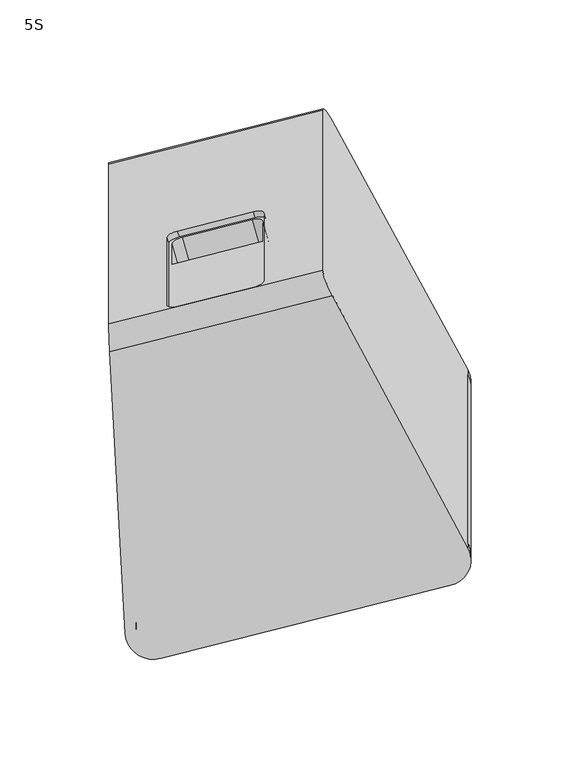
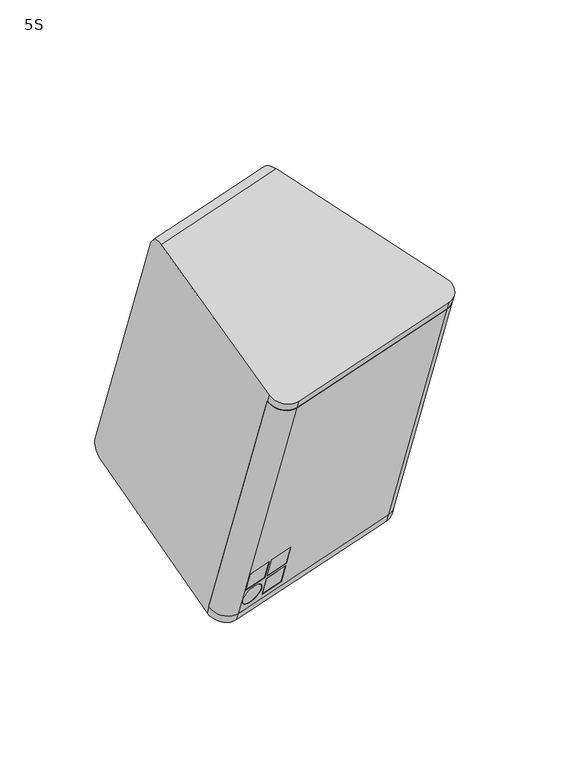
"""IFC4 building model written with IfcOpenShell, lengths in millimetres: proxy geometry, d&b xS-Series 5S Point Source : 5S."""

import ifcopenshell
import ifcopenshell.guid

model = None  # the IFC model being written
_history = None  # IfcOwnerHistory: only IFC2X3 demands one
_inside = {}  # id of a spatial element -> (the spatial element, [elements in it])
_under = {}  # id of a project, library or spatial element -> (it, [spatial elements below it])
_declared = {}  # id of a project -> (the project, [libraries it declares])
_typed = {}  # id of a type object -> (the type object, [elements of that type])
_made_of = {}  # id of a material, layer set ... -> (it, [elements and type objects made of it])


def new_model(schema):
    """Start an empty IFC model of exactly this schema.

    Asked for "IFC4X3", IfcOpenShell would pick the latest addendum, in which some entities
    have other attributes; the version numbers below select the first issue.
    IFC2X3 requires an IfcOwnerHistory on every rooted entity: one is made here for all.
    """
    global model, _history
    if schema == "IFC4X3":
        model = ifcopenshell.file(schema_version=(4, 3, 0, 0))
    else:
        model = ifcopenshell.file(schema=schema)
    _inside.clear()
    _under.clear()
    _declared.clear()
    _typed.clear()
    _made_of.clear()
    _history = None
    if model.schema == "IFC2X3":
        org = make("IfcOrganization", Name="unknown")
        user = make(
            "IfcPersonAndOrganization",
            ThePerson=make("IfcPerson", FamilyName="unknown"),
            TheOrganization=org,
        )
        app = make(
            "IfcApplication",
            ApplicationDeveloper=org,
            Version="unknown",
            ApplicationFullName="unknown",
            ApplicationIdentifier="unknown",
        )
        _history = make(
            "IfcOwnerHistory",
            OwningUser=user,
            OwningApplication=app,
            ChangeAction="ADDED",
            CreationDate=0,
        )
    return model


def make(cls, **values):
    """One entity of the class cls with the attributes given. An attribute that is None is left unset."""
    return model.create_entity(
        cls, **{name: value for name, value in values.items() if value is not None}
    )


def rooted(cls, **values):
    """An entity with a GlobalId (a new one), such as an element, a storey or a relation."""
    return make(cls, GlobalId=ifcopenshell.guid.new(), OwnerHistory=_history, **values)


def si_unit(unit_type, name, prefix=None):
    """IfcSIUnit, for example si_unit("LENGTHUNIT", "METRE", prefix="MILLI")."""
    return make("IfcSIUnit", UnitType=unit_type, Prefix=prefix, Name=name)


def assignment(units):
    """IfcUnitAssignment: the units of a project."""
    return None if units is None else make("IfcUnitAssignment", Units=units)


def point(xyz):
    """IfcCartesianPoint."""
    return None if xyz is None else make("IfcCartesianPoint", Coordinates=xyz)


def direction(xyz):
    """IfcDirection."""
    return None if xyz is None else make("IfcDirection", DirectionRatios=xyz)


def frame(location, z_axis=None, x_axis=None):
    """IfcAxis2Placement3D, a coordinate frame: its origin and axes. An axis left out is left unset."""
    return make(
        "IfcAxis2Placement3D",
        Location=point(location),
        Axis=direction(z_axis),
        RefDirection=direction(x_axis),
    )


def frame_2d(location, x_axis=None):
    """IfcAxis2Placement2D, a coordinate frame in the plane: its origin and x axis."""
    return make(
        "IfcAxis2Placement2D", Location=point(location), RefDirection=direction(x_axis)
    )


def origin():
    """The frame at (0, 0, 0) with its axes left unset."""
    return frame((0.0, 0.0, 0.0))


def place(relative_to, where):
    """IfcLocalPlacement: puts the frame where relative to a parent placement (None: the world)."""
    return make(
        "IfcLocalPlacement", PlacementRelTo=relative_to, RelativePlacement=where
    )


def context(
    kind, dimensions, precision=None, world=None, true_north=None, identifier=None
):
    """IfcGeometricRepresentationContext, for example the 3D "Model" context."""
    return make(
        "IfcGeometricRepresentationContext",
        ContextIdentifier=identifier,
        ContextType=kind,
        CoordinateSpaceDimension=dimensions,
        Precision=precision,
        WorldCoordinateSystem=world,
        TrueNorth=true_north,
    )


def project(units=None, contexts=None):
    """IfcProject with its units and contexts."""
    return rooted(
        "IfcProject",
        Name="project",
        RepresentationContexts=contexts,
        UnitsInContext=assignment(units),
    )


def spatial(cls, under=None, at=None, **own):
    """A site, building, storey or space (cls), placed at a placement, below another one or the project."""
    s = rooted(cls, ObjectPlacement=at, **own)
    if under is not None:
        _under.setdefault(under.id(), (under, []))[1].append(s)
    return s


def polyline(points):
    """IfcPolyline through the points."""
    return make("IfcPolyline", Points=[point(p) for p in points])


def circle_curve(where, radius):
    """IfcCircle in the frame where."""
    return make("IfcCircle", Position=where, Radius=radius)


def ellipse_curve(where, semi_axis1, semi_axis2):
    """IfcEllipse in the frame where."""
    return make(
        "IfcEllipse", Position=where, SemiAxis1=semi_axis1, SemiAxis2=semi_axis2
    )


def trimmed(basis, trim1, trim2, sense, master):
    """IfcTrimmedCurve: the piece of a basis curve between two trims."""
    return make(
        "IfcTrimmedCurve",
        BasisCurve=basis,
        Trim1=trim1,
        Trim2=trim2,
        SenseAgreement=sense,
        MasterRepresentation=master,
    )


def segment(curve, same_sense, transition):
    """IfcCompositeCurveSegment."""
    return make(
        "IfcCompositeCurveSegment",
        Transition=transition,
        SameSense=same_sense,
        ParentCurve=curve,
    )


def composite_curve(segments, self_intersect=None):
    """IfcCompositeCurve: segments joined end to end."""
    return make("IfcCompositeCurve", Segments=segments, SelfIntersect=self_intersect)


def outline(outer, holes=None, kind="AREA"):
    """IfcArbitraryClosedProfileDef: a profile drawn as a closed curve; with holes, ...WithVoids."""
    if holes is None:
        return make("IfcArbitraryClosedProfileDef", ProfileType=kind, OuterCurve=outer)
    return make(
        "IfcArbitraryProfileDefWithVoids",
        ProfileType=kind,
        OuterCurve=outer,
        InnerCurves=holes,
    )


def extrude(swept, where, along, depth):
    """IfcExtrudedAreaSolid: the profile swept, set in the frame where, extruded along a direction by depth."""
    return make(
        "IfcExtrudedAreaSolid",
        SweptArea=swept,
        Position=where,
        ExtrudedDirection=direction(along),
        Depth=depth,
    )


def shape(context_of_items, identifier, shape_type, items):
    """IfcShapeRepresentation: the items that make up one representation, for example the "Body"."""
    return make(
        "IfcShapeRepresentation",
        ContextOfItems=context_of_items,
        RepresentationIdentifier=identifier,
        RepresentationType=shape_type,
        Items=items,
    )


def source(mapping_origin, context_of_items, identifier, shape_type, items):
    """IfcRepresentationMap: a shape defined once, which mapped items show again and again."""
    return make(
        "IfcRepresentationMap",
        MappingOrigin=mapping_origin,
        MappedRepresentation=shape(context_of_items, identifier, shape_type, items),
    )


def transform(
    local_origin,
    x_axis=None,
    y_axis=None,
    z_axis=None,
    scale=None,
    scale2=None,
    scale3=None,
    uniform=True,
):
    """IfcCartesianTransformationOperator3D, or its non-uniform kind. x_axis, y_axis, z_axis: its Axis1, 2, 3."""
    if uniform:
        return make(
            "IfcCartesianTransformationOperator3D",
            Axis1=direction(x_axis),
            Axis2=direction(y_axis),
            LocalOrigin=point(local_origin),
            Scale=scale,
            Axis3=direction(z_axis),
        )
    return make(
        "IfcCartesianTransformationOperator3DnonUniform",
        Axis1=direction(x_axis),
        Axis2=direction(y_axis),
        LocalOrigin=point(local_origin),
        Scale=scale,
        Axis3=direction(z_axis),
        Scale2=scale2,
        Scale3=scale3,
    )


def mapped(mapping_source, mapping_target):
    """IfcMappedItem: shows the shape of a source again, moved by a transform."""
    return make(
        "IfcMappedItem", MappingSource=mapping_source, MappingTarget=mapping_target
    )


def made_of(thing, what):
    """Note that an element or type object is made of a material, layer set ...; save() writes the relation."""
    if what is not None:
        _made_of.setdefault(what.id(), (what, []))[1].append(thing)
    return thing


def element(
    cls,
    number,
    at=None,
    inside=None,
    cuts=None,
    type_object=None,
    material=None,
    context=None,
    identifier="Body",
    shape_type=None,
    held_by="IfcProductDefinitionShape",
    body=None,
    shapes=None,
    **own,
):
    """One element of the class cls, such as IfcWall. Its Tag is "e" and its number.

    at: its placement. inside: the storey or other place that contains it. cuts: it is an
    opening in that element (IfcRelVoidsElement). A single representation is given by context,
    identifier, shape_type and body (its items); several are given by shapes. held_by: the class
    of the entity that holds the representations. save() writes the other relations.
    """
    e = rooted(cls, Tag="e%d" % number, ObjectPlacement=at, **own)
    if body is not None:
        shapes = [shape(context, identifier, shape_type, body)]
    if shapes is not None:
        e.Representation = make(held_by, Representations=shapes)
    if inside is not None:
        _inside.setdefault(inside.id(), (inside, []))[1].append(e)
    if cuts is not None:
        rooted(
            "IfcRelVoidsElement", RelatingBuildingElement=cuts, RelatedOpeningElement=e
        )
    if type_object is not None:
        _typed.setdefault(type_object.id(), (type_object, []))[1].append(e)
    return made_of(e, material)


def aggregate(whole, parts):
    """IfcRelAggregates: a whole, such as a stair, and the parts it consists of."""
    return rooted("IfcRelAggregates", RelatingObject=whole, RelatedObjects=parts)


def save(model, path):
    """Write the relations noted so far, then the file.

    IfcRelAggregates (storeys below a building ...), IfcRelContainedInSpatialStructure (elements
    in a storey), IfcRelDefinesByType, IfcRelAssociatesMaterial and IfcRelDeclares: one each for
    every whole, place, type object, material and project.
    """
    for whole, parts in _under.values():
        aggregate(whole, parts)
    for where, things in _inside.values():
        rooted(
            "IfcRelContainedInSpatialStructure",
            RelatedElements=things,
            RelatingStructure=where,
        )
    for kind, things in _typed.values():
        rooted("IfcRelDefinesByType", RelatedObjects=things, RelatingType=kind)
    for what, things in _made_of.values():
        rooted("IfcRelAssociatesMaterial", RelatedObjects=things, RelatingMaterial=what)
    for by, libraries in _declared.values():
        rooted("IfcRelDeclares", RelatingContext=by, RelatedDefinitions=libraries)
    model.write(path)


def plane_surface(at):
    """IfcPlane: the flat surface through the origin of the frame at, square to its z axis."""
    return make("IfcPlane", Position=at)


def cylinder_surface(at, radius):
    """IfcCylindricalSurface: all points at the distance radius from the z axis of the frame at."""
    return make("IfcCylindricalSurface", Position=at, Radius=radius)


def revolved_surface(curve, axis_point, axis_direction):
    """IfcSurfaceOfRevolution: the curve turned about the line through axis_point along axis_direction."""
    return make(
        "IfcSurfaceOfRevolution",
        SweptCurve=make("IfcArbitraryOpenProfileDef", ProfileType="CURVE", Curve=curve),
        AxisPosition=make("IfcAxis1Placement", Location=point(axis_point), Axis=direction(axis_direction)),
    )


def advanced_brep(points, edges, surfaces, faces):
    """IfcAdvancedBrep: a solid bounded by faces that lie on surfaces and meet in shared edges.

    An edge is (start, end): straight between two places in points (the first is 0);
    or (start, end, curve); or (start, end, curve, False) where it runs against its curve.
    A face is (place in surfaces, loops), or (place, loops, False) where it looks against
    its surface's normal. A loop lists edges by number (the first is 1), with a minus sign
    where the edge is run from its end to its start. The first loop is the outer one.
    """
    corners = [point(p) for p in points]
    vertices = [make("IfcVertexPoint", VertexGeometry=c) for c in corners]
    made = []
    for start, end, *more in edges:
        made.append(
            make(
                "IfcEdgeCurve",
                EdgeStart=vertices[start],
                EdgeEnd=vertices[end],
                EdgeGeometry=more[0] if more else make("IfcPolyline", Points=[corners[start], corners[end]]),
                SameSense=more[1] if len(more) > 1 else True,
            )
        )
    hull = []
    for where, loops, *sense in faces:
        bounds = []
        for j, loop in enumerate(loops):
            ring = [make("IfcOrientedEdge", EdgeElement=made[abs(k) - 1], Orientation=k > 0) for k in loop]
            bounds.append(
                make(
                    "IfcFaceOuterBound" if j == 0 else "IfcFaceBound",
                    Bound=make("IfcEdgeLoop", EdgeList=ring),
                    Orientation=True,
                )
            )
        hull.append(make("IfcAdvancedFace", Bounds=bounds, FaceSurface=surfaces[where], SameSense=sense[0] if sense else True))
    return make("IfcAdvancedBrep", Outer=make("IfcClosedShell", CfsFaces=hull))


def proxy_5s_1bd1272a(model_context):
    return source(origin(), model_context, "Body", "SolidModel", [
        extrude(outline(composite_curve([segment(trimmed(circle_curve(frame_2d((137.8926739, -8.0000001)), 8.0), [point((137.8926739, -1e-07))], [point((145.422255, -10.702852))], False, "CARTESIAN"), True, "CONTINUOUS"), segment(polyline([(145.422255, -10.702852), (-7.5295811, -10.702852)]), True, "CONTINUOUS"), segment(trimmed(circle_curve(frame_2d((0.0, -8.0000001)), 8.0), [point((-7.5295811, -10.702852))], [point((0.0, 0.0))], False, "CARTESIAN"), True, "CONTINUOUS"), segment(polyline([(0.0, 0.0), (137.8926739, -1e-07)]), True, "CONTINUOUS")], self_intersect=False)), frame((86.0084759, -12.6832363, -124.792265), z_axis=(0.0, -0.34202014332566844, 0.9396926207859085), x_axis=(-0.9659258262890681, -0.24321034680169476, -0.08852132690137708)), (0.0, 0.0, 1.0), 225.8568964),
        advanced_brep(
        [(-28.6980442, -60.9652401, -97.1379219), (-29.9921394, -56.4268732, -95.4860914), (-29.9921394, -50.4415207, -111.9307123), (-28.6980442, -54.9798876, -113.5825427), (-46.8958414, -54.6977018, -113.4798355), (-45.6017462, -59.2360687, -115.1316659), (-46.8958414, -60.6830543, -97.0352146), (-45.6017462, -65.2214212, -98.6870451), (-9.3795277, -56.1010332, -95.3674953), (-10.6736229, -51.5626663, -93.7156649), (-10.6736229, -45.5773138, -110.1602857), (-9.3795277, -50.1156807, -111.8121162), (-27.5773249, -49.8334949, -111.709409), (-26.2832296, -54.3718617, -113.3612394), (-27.5773249, -55.8188474, -95.2647881), (-26.2832296, -60.3572142, -96.9166185), (-9.3795277, -49.2606303, -114.1613477), (-10.6736229, -44.7222634, -112.5095173), (-10.6736229, -38.7369109, -128.9541382), (-9.3795277, -43.2752778, -130.6059686), (-27.5773249, -42.993092, -130.5032614), (-26.2832296, -47.5314589, -132.1550918), (-27.5773249, -48.9784445, -114.0586405), (-26.2832296, -53.5168114, -115.710471), (-37.1498952, -50.2675753, -133.1509568), (-38.4439904, -45.7292084, -131.4991263), (-38.4439904, -51.7145609, -115.0545054), (-37.1498952, -56.2529278, -116.7063359), (-45.8915239, -128.0061363, 73.5855211), (87.3025711, -94.4692112, 85.7919635), (95.5210083, -77.1235076, 92.1052833), (90.5113908, -78.3848786, 91.6461819), (86.0084759, -89.9308444, 87.443794), (-47.1856191, -123.4677694, 75.2373515), (-57.2287379, -115.5843477, 78.1066824), (-62.2383554, -116.8457187, 77.6475809), (-45.8915239, -50.7585282, -138.6505379), (-62.2383554, -39.5981106, -134.5884781), (-57.2287379, -38.3367396, -134.1293766), (-47.1856191, -46.2201613, -136.9987074), (86.0084759, -12.6832363, -124.792265), (90.5113908, -1.1372705, -120.5898771), (95.5210083, 0.1241005, -120.1307756), (87.3025711, -17.2216031, -126.4440954)],
        [
            (0, 1),
            (1, 2),
            (2, 3),
            (3, 0),
            (2, 4),
            (4, 5),
            (5, 3),
            (4, 6),
            (6, 7),
            (7, 5),
            (0, 7),
            (6, 1),
            (8, 9),
            (9, 10),
            (10, 11),
            (11, 8),
            (10, 12),
            (12, 13),
            (13, 11),
            (12, 14),
            (14, 15),
            (15, 13),
            (8, 15),
            (14, 9),
            (16, 17),
            (17, 18),
            (18, 19),
            (19, 16),
            (18, 20),
            (20, 21),
            (21, 19),
            (20, 22),
            (22, 23),
            (23, 21),
            (16, 23),
            (22, 17),
            (24, 25),
            (25, 26, circle_curve(frame((-38.4439904, -48.7218847, -123.2768159), z_axis=(-0.25881904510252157, 0.9076733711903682, 0.33036608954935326), x_axis=(0.0, -0.3420201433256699, 0.939692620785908)), 8.75)),
            (26, 27),
            (27, 24, circle_curve(frame((-37.1498952, -53.2602515, -124.9286463), z_axis=(0.25881904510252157, -0.9076733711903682, -0.33036608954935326), x_axis=(0.0, -0.3420201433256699, 0.939692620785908)), 8.75)),
            (24, 27, circle_curve(frame((-37.1498952, -53.2602515, -124.9286463), z_axis=(0.25881904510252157, -0.9076733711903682, -0.33036608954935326), x_axis=(0.0, -0.3420201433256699, 0.939692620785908)), 8.75)),
            (26, 25, circle_curve(frame((-38.4439904, -48.7218847, -123.2768159), z_axis=(-0.25881904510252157, 0.9076733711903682, 0.33036608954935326), x_axis=(0.0, -0.3420201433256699, 0.939692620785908)), 8.75)),
            (28, 29),
            (29, 30, circle_curve(frame((83.9379235, -82.6694574, 90.0867227), z_axis=(0.0, -0.34202014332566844, 0.9396926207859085), x_axis=(0.2588190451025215, -0.9076733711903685, -0.3303660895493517)), 13.0)),
            (30, 31),
            (31, 32, circle_curve(frame((83.9379235, -82.6694574, 90.0867227), z_axis=(0.0, 0.34202014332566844, -0.9396926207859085), x_axis=(0.2588190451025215, -0.9076733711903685, -0.3303660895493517)), 8.0)),
            (32, 33),
            (33, 34, circle_curve(frame((-49.2561715, -116.2063824, 77.8802802), z_axis=(0.0, 0.34202014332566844, -0.9396926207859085), x_axis=(0.2588190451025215, -0.9076733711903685, -0.3303660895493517)), 8.0)),
            (34, 35),
            (35, 28, circle_curve(frame((-49.2561715, -116.2063824, 77.8802802), z_axis=(0.0, -0.34202014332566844, 0.9396926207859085), x_axis=(0.2588190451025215, -0.9076733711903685, -0.3303660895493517)), 13.0)),
            (36, 37, circle_curve(frame((-49.2561715, -38.9587743, -134.3557787), z_axis=(0.0, 0.34202014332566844, -0.9396926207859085), x_axis=(0.2588190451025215, -0.9076733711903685, -0.3303660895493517)), 13.0)),
            (37, 38),
            (38, 39, circle_curve(frame((-49.2561715, -38.9587743, -134.3557787), z_axis=(0.0, -0.34202014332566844, 0.9396926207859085), x_axis=(0.2588190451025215, -0.9076733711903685, -0.3303660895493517)), 8.0)),
            (39, 40),
            (40, 41, circle_curve(frame((83.9379235, -5.4218493, -122.1493362), z_axis=(0.0, -0.34202014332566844, 0.9396926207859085), x_axis=(0.2588190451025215, -0.9076733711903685, -0.3303660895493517)), 8.0)),
            (41, 42),
            (42, 43, circle_curve(frame((83.9379235, -5.4218493, -122.1493362), z_axis=(0.0, 0.34202014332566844, -0.9396926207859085), x_axis=(0.2588190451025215, -0.9076733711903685, -0.3303660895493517)), 13.0)),
            (43, 36),
            (28, 36),
            (43, 29),
            (42, 30),
            (41, 31),
            (40, 32),
            (39, 33),
            (38, 34),
            (37, 35),
        ],
        [
            plane_surface(frame((-28.6980442, -54.9798876, -113.5825427), z_axis=(-0.9659258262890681, -0.24321034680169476, -0.08852132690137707), x_axis=(-0.25881904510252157, 0.9076733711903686, 0.33036608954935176))),
            plane_surface(frame((-45.6017462, -59.2360687, -115.1316659), z_axis=(0.0, -0.34202014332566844, 0.9396926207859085), x_axis=(-0.25881904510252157, 0.9076733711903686, 0.33036608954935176))),
            plane_surface(frame((-45.6017462, -65.2214212, -98.6870451), z_axis=(0.9659258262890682, 0.24321034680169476, 0.08852132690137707), x_axis=(-0.25881904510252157, 0.9076733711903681, 0.33036608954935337))),
            plane_surface(frame((-28.6980442, -60.9652401, -97.1379219), z_axis=(0.0, 0.34202014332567, -0.939692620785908), x_axis=(-0.25881904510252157, 0.9076733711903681, 0.33036608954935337))),
            plane_surface(frame((-9.3795277, -50.1156807, -111.8121162), z_axis=(-0.9659258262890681, -0.24321034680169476, -0.08852132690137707), x_axis=(-0.25881904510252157, 0.9076733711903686, 0.33036608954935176))),
            plane_surface(frame((-26.2832296, -54.3718617, -113.3612394), z_axis=(0.0, -0.34202014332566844, 0.9396926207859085), x_axis=(-0.25881904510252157, 0.9076733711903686, 0.33036608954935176))),
            plane_surface(frame((-26.2832296, -60.3572142, -96.9166185), z_axis=(0.9659258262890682, 0.24321034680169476, 0.08852132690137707), x_axis=(-0.25881904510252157, 0.9076733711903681, 0.33036608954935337))),
            plane_surface(frame((-9.3795277, -56.1010332, -95.3674953), z_axis=(0.0, 0.34202014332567, -0.939692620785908), x_axis=(-0.25881904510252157, 0.9076733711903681, 0.33036608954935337))),
            plane_surface(frame((-9.3795277, -43.2752778, -130.6059686), z_axis=(-0.9659258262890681, -0.24321034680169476, -0.08852132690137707), x_axis=(-0.25881904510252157, 0.9076733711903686, 0.33036608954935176))),
            plane_surface(frame((-26.2832296, -47.5314589, -132.1550918), z_axis=(0.0, -0.34202014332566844, 0.9396926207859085), x_axis=(-0.25881904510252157, 0.9076733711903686, 0.33036608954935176))),
            plane_surface(frame((-26.2832296, -53.5168114, -115.710471), z_axis=(0.9659258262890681, 0.24321034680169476, 0.08852132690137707), x_axis=(-0.25881904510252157, 0.9076733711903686, 0.33036608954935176))),
            plane_surface(frame((-9.3795277, -49.2606303, -114.1613477), z_axis=(0.0, 0.34202014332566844, -0.9396926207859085), x_axis=(-0.25881904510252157, 0.9076733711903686, 0.33036608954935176))),
            revolved_surface(polyline([(-37.1498951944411, -56.25292780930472, -116.70633592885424), (-38.44399043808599, -51.714560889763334, -115.05450545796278)]), (-21.0390028, -109.7608387, -145.4931783), (0.2588190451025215, -0.907673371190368, -0.3303660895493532)),
            plane_surface(frame((87.3025711, -94.4692112, 85.7919635), z_axis=(0.0, -0.34202014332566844, 0.9396926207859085), x_axis=(0.9659258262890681, 0.24321034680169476, 0.08852132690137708))),
            plane_surface(frame((87.3025711, -17.2216031, -126.4440954), z_axis=(0.0, 0.34202014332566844, -0.9396926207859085), x_axis=(-0.9659258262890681, -0.24321034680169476, -0.08852132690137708))),
            plane_surface(frame((-45.8915239, -128.0061363, 73.5855211), z_axis=(0.25881904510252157, -0.9076733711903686, -0.33036608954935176), x_axis=(0.0, 0.34202014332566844, -0.9396926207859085))),
            cylinder_surface(frame((83.9379235, -5.4218493, -122.1493362), z_axis=(0.0, -0.34202014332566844, 0.9396926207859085), x_axis=(0.2588190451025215, -0.9076733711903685, -0.3303660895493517)), 13.0),
            plane_surface(frame((95.5210083, -77.1235076, 92.1052833), z_axis=(-0.25881904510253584, 0.9076733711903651, 0.3303660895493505), x_axis=(0.0, 0.34202014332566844, -0.9396926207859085))),
            revolved_surface(polyline([(86.00847586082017, -12.683236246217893, -124.79226498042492), (86.00847586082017, -89.93084436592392, 87.44379403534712)]), (83.9379235, -5.4218493, -122.1493362), (0.0, 0.34202014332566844, -0.9396926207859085)),
            plane_surface(frame((86.0084759, -89.9308444, 87.443794), z_axis=(-0.25881904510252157, 0.9076733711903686, 0.33036608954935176), x_axis=(0.0, 0.34202014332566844, -0.9396926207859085))),
            revolved_surface(polyline([(-47.18561913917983, -46.22016126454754, -136.99870743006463), (-47.18561913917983, -123.46776937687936, 75.23735156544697)]), (-49.2561715, -38.9587743, -134.3557787), (0.0, 0.34202014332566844, -0.9396926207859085)),
            plane_surface(frame((-57.2287379, -115.5843477, 78.1066824), z_axis=(-0.25881904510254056, 0.907673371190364, 0.3303660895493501), x_axis=(0.0, 0.34202014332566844, -0.9396926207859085))),
            cylinder_surface(frame((-49.2561715, -38.9587743, -134.3557787), z_axis=(0.0, -0.34202014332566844, 0.9396926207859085), x_axis=(0.2588190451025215, -0.9076733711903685, -0.3303660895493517)), 13.0),
        ],
        [
            (0, [[1, 2, 3, 4]]),
            (1, [[-3, 5, 6, 7]]),
            (2, [[-6, 8, 9, 10]]),
            (3, [[-1, 11, -9, 12]]),
            (4, [[13, 14, 15, 16]]),
            (5, [[-15, 17, 18, 19]]),
            (6, [[-18, 20, 21, 22]]),
            (7, [[-13, 23, -21, 24]]),
            (8, [[25, 26, 27, 28]]),
            (9, [[-27, 29, 30, 31]]),
            (10, [[-30, 32, 33, 34]]),
            (11, [[-25, 35, -33, 36]]),
            (12, [[37, 38, 39, 40]]),
            (12, [[-37, 41, -39, 42]]),
            (13, [[43, 44, 45, 46, 47, 48, 49, 50]]),
            (14, [[51, 52, 53, 54, 55, 56, 57, 58]]),
            (15, [[-43, 59, -58, 60], [-4, -7, -10, -11], [-16, -19, -22, -23], [-28, -31, -34, -35], [-40, -41]]),
            (16, [[-44, -60, -57, 61]]),
            (17, [[-45, -61, -56, 62]]),
            (18, [[-46, -62, -55, 63]]),
            (19, [[-47, -63, -54, 64], [-2, -12, -8, -5], [-14, -24, -20, -17], [-26, -36, -32, -29], [-38, -42]]),
            (20, [[-48, -64, -53, 65]]),
            (21, [[-49, -65, -52, 66]]),
            (22, [[-50, -66, -51, -59]]),
        ],
    ),
        extrude(outline(polyline([(0.0, -17.5), (0.0, 0.0), (5.0, 0.0), (5.0, -17.5000001), (0.0, -17.5)])), frame((-45.6017462, -59.2360687, -115.1316659), z_axis=(0.0, -0.34202014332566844, 0.9396926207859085), x_axis=(-0.25881904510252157, 0.9076733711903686, 0.33036608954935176)), (0.0, 0.0, 1.0), 17.5),
        extrude(outline(polyline([(-1e-07, -17.4999999), (0.0, 0.0), (5.0, 1e-07), (5.0, -17.5), (-1e-07, -17.4999999)])), frame((-26.2832296, -54.3718617, -113.3612394), z_axis=(0.0, -0.34202014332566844, 0.9396926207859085), x_axis=(-0.25881904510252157, 0.9076733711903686, 0.33036608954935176)), (0.0, 0.0, 1.0), 17.5),
        extrude(outline(polyline([(0.0, -17.4999999), (0.0, 0.0), (5.0, 1e-07), (5.0000001, -17.5), (0.0, -17.4999999)])), frame((-26.2832296, -47.5314589, -132.1550918), z_axis=(0.0, -0.34202014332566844, 0.9396926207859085), x_axis=(-0.25881904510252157, 0.9076733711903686, 0.33036608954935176)), (0.0, 0.0, 1.0), 17.5),
        extrude(outline(composite_curve([segment(trimmed(circle_curve(frame_2d((-8.75, -28.75)), 8.75), [point((-8.75, -37.5))], [point((-8.75, -20.0))], False, "CARTESIAN"), True, "CONTINUOUS"), segment(trimmed(circle_curve(frame_2d((-8.75, -28.75)), 8.75), [point((-8.75, -20.0))], [point((-8.75, -37.5))], False, "CARTESIAN"), True, "CONTINUOUS")], self_intersect=False)), frame((-45.6017462, -65.2214212, -98.6870451), z_axis=(-0.25881904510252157, 0.9076733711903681, 0.33036608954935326), x_axis=(-0.9659258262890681, -0.24321034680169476, -0.08852132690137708)), (0.0, 0.0, 1.0), 5.0),
        advanced_brep(
        [(-42.2043715, 29.3752037, 119.3028461), (-37.3747424, 28.8811547, 124.4439158), (-2.4833906, 37.6664439, 127.6414996), (2.3462386, 40.5925964, 123.3856431), (2.3462386, 71.7582193, 37.7587979), (-2.4833906, 72.2522683, 32.6177281), (-37.3747424, 63.466979, 29.4201443), (-42.2043715, 60.5408266, 33.6760008), (-35.858486, 63.3118729, 31.0341771), (-3.9996469, 71.3336062, 33.9538492), (0.8299822, 70.8395572, 39.094919), (0.8299822, 61.4644778, 64.852738), (-40.6881152, 51.0106411, 61.0478526), (-40.6881152, 60.3857205, 35.2900336), (-42.9808287, 32.0982238, 120.2939443), (-38.1511995, 31.6041748, 125.4350141), (-3.2598477, 40.389464, 128.6325979), (1.5697814, 43.3156165, 124.3767414), (1.5697814, 74.4812394, 38.7498961), (-3.2598477, 74.9752884, 33.6088264), (-38.1511995, 66.1899992, 30.4112426), (-42.9808287, 63.2638467, 34.6670991), (0.1414578, 56.8108322, 28.6679918), (-31.7173813, 48.789099, 25.7483197), (-36.5470104, 45.8629466, 30.0041762), (-36.5470104, 36.4878671, 55.7619952), (4.9710869, 46.9417038, 59.5668805), (4.9710869, 56.3167833, 33.8090615), (-45.8915239, -128.0061363, 73.5855211), (-62.2383554, -116.8457187, 77.6475809), (95.5210083, -77.1235076, 92.1052833), (87.3025711, -94.4692112, 85.7919635), (-45.8915239, -50.7585282, -138.6505379), (87.3025711, -17.2216031, -126.4440954), (95.5210083, 0.1241005, -120.1307756), (-62.2383554, -39.5981106, -134.5884781), (-62.2383554, -119.1543288, 83.990435), (-69.4324674, 10.5713625, 128.9280191), (-69.9589992, 23.4320587, 122.9685012), (-69.9589992, 96.9926273, -79.1375), (-69.4324674, 90.9714667, -91.9694517), (-62.2383554, -37.2895005, -140.9313322), (28.547952, 48.2351121, 131.9960743), (28.547952, 121.7956807, -70.1099269), (95.5210083, 2.4327106, -126.4736298), (33.1153751, 116.7919756, -82.5715551), (33.1153751, 36.3918714, 138.3259157), (95.5210083, -79.4321177, 98.4481375), (87.3025711, -96.8633522, 92.3698119), (-45.8915239, -130.4002773, 80.1633694), (-45.8915239, -48.3643872, -145.2283862), (87.3025711, -14.8274621, -133.0219437)],
        [
            (0, 1, circle_curve(frame((-37.3747424, 30.5912554, 119.7454527), z_axis=(-0.25881904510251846, 0.9076733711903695, 0.3303660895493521), x_axis=(-0.9659258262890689, -0.2432103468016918, -0.088521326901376)), 5.0)),
            (1, 2),
            (2, 3, circle_curve(frame((-2.4833906, 39.3765446, 122.9430365), z_axis=(-0.25881904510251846, 0.9076733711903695, 0.3303660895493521), x_axis=(-0.9659258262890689, -0.2432103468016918, -0.088521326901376)), 5.0)),
            (3, 4),
            (4, 5, circle_curve(frame((-2.4833906, 70.5421676, 37.3161912), z_axis=(-0.25881904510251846, 0.9076733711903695, 0.3303660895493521), x_axis=(-0.9659258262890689, -0.2432103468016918, -0.088521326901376)), 5.0)),
            (5, 6),
            (6, 7, circle_curve(frame((-37.3747424, 61.7568783, 34.1186074), z_axis=(-0.25881904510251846, 0.9076733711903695, 0.3303660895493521), x_axis=(-0.9659258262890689, -0.2432103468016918, -0.088521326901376)), 5.0)),
            (7, 0),
            (8, 9),
            (9, 10, circle_curve(frame((-3.9996469, 69.6235055, 38.6523123), z_axis=(0.25881904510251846, -0.9076733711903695, -0.3303660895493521), x_axis=(-0.9659258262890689, -0.2432103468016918, -0.088521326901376)), 5.0)),
            (10, 11),
            (11, 12),
            (12, 13),
            (13, 8, circle_curve(frame((-35.858486, 61.6017722, 35.7326402), z_axis=(0.25881904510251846, -0.9076733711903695, -0.3303660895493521), x_axis=(-0.9659258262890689, -0.2432103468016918, -0.088521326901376)), 5.0)),
            (0, 14),
            (14, 15, circle_curve(frame((-38.1511995, 33.3142755, 120.736551), z_axis=(-0.25881904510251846, 0.9076733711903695, 0.3303660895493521), x_axis=(-0.9659258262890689, -0.2432103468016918, -0.088521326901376)), 5.0)),
            (15, 1),
            (15, 16),
            (16, 2),
            (16, 17, circle_curve(frame((-3.2598477, 42.0995648, 123.9341348), z_axis=(-0.25881904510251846, 0.9076733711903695, 0.3303660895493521), x_axis=(-0.9659258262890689, -0.2432103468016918, -0.088521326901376)), 5.0)),
            (17, 3),
            (17, 18),
            (18, 4),
            (18, 19, circle_curve(frame((-3.2598477, 73.2651877, 38.3072895), z_axis=(-0.25881904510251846, 0.9076733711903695, 0.3303660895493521), x_axis=(-0.9659258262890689, -0.2432103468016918, -0.088521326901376)), 5.0)),
            (19, 5),
            (19, 20),
            (20, 6),
            (20, 21, circle_curve(frame((-38.1511995, 64.4798984, 35.1097057), z_axis=(-0.25881904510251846, 0.9076733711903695, 0.3303660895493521), x_axis=(-0.9659258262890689, -0.2432103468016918, -0.088521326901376)), 5.0)),
            (21, 7),
            (21, 14),
            (22, 23),
            (23, 24, circle_curve(frame((-31.7173813, 47.0789983, 30.4467828), z_axis=(-0.25881904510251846, 0.9076733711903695, 0.3303660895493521), x_axis=(-0.9659258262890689, -0.2432103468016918, -0.088521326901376)), 5.0)),
            (24, 25),
            (25, 26),
            (26, 27),
            (27, 22, circle_curve(frame((0.1414578, 55.1007315, 33.3664549), z_axis=(-0.25881904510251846, 0.9076733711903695, 0.3303660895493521), x_axis=(-0.9659258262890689, -0.2432103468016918, -0.088521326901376)), 5.0)),
            (28, 29, circle_curve(frame((-49.2561715, -116.2063824, 77.8802802), z_axis=(0.0, 0.34202014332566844, -0.9396926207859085), x_axis=(0.2588190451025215, -0.9076733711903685, -0.3303660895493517)), 13.0)),
            (29, 30),
            (30, 31, circle_curve(frame((83.9379235, -82.6694574, 90.0867227), z_axis=(0.0, 0.34202014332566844, -0.9396926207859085), x_axis=(0.2588190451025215, -0.9076733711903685, -0.3303660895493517)), 13.0)),
            (31, 28),
            (32, 33),
            (33, 34, circle_curve(frame((83.9379235, -5.4218493, -122.1493362), z_axis=(0.0, -0.34202014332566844, 0.9396926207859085), x_axis=(0.2588190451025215, -0.9076733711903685, -0.3303660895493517)), 13.0)),
            (34, 35),
            (35, 32, circle_curve(frame((-49.2561715, -38.9587743, -134.3557787), z_axis=(0.0, -0.34202014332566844, 0.9396926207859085), x_axis=(0.2588190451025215, -0.9076733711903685, -0.3303660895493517)), 13.0)),
            (22, 9),
            (8, 23),
            (13, 24),
            (12, 25),
            (11, 26),
            (10, 27),
            (29, 35),
            (34, 30),
            (29, 36),
            (36, 37),
            (37, 38, ellipse_curve(frame((-69.4239475, 13.8383655, 119.4766824), z_axis=(-0.9986295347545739, -0.04917971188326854, -0.01789995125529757), x_axis=(0.05233595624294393, -0.938404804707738, -0.34155141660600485)), 10.2234059, 10.0)),
            (38, 39),
            (39, 40, ellipse_curve(frame((-69.4239475, 87.3989341, -82.6293188), z_axis=(-0.9986295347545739, -0.04917971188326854, -0.01789995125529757), x_axis=(0.05233595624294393, -0.938404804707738, -0.34155141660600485)), 10.2234059, 10.0)),
            (40, 41),
            (41, 35),
            (38, 42),
            (42, 43),
            (43, 39),
            (34, 44),
            (44, 45),
            (45, 43, ellipse_curve(frame((33.1892812, 113.2359065, -73.2254299), z_axis=(0.8910065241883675, 0.4266115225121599, 0.15527389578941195), x_axis=(-0.45399049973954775, 0.8372722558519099, 0.3047421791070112)), 10.2234059, 10.0)),
            (42, 46, ellipse_curve(frame((33.1892812, 39.6753379, 128.8805713), z_axis=(0.8910065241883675, 0.4266115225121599, 0.15527389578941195), x_axis=(-0.45399049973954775, 0.8372722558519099, 0.3047421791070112)), 10.2234059, 10.0)),
            (46, 47),
            (47, 30),
            (31, 48),
            (48, 49),
            (49, 28),
            (47, 48, ellipse_curve(frame((83.9379235, -84.9927895, 96.4700252), z_axis=(0.004121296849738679, 0.32752347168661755, -0.9448340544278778), x_axis=(0.25878623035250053, -0.9130044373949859, -0.3153610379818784)), 13.0016484, 13.0)),
            (49, 36, ellipse_curve(frame((-49.2561715, -118.5297146, 84.2635828), z_axis=(0.004121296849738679, 0.32752347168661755, -0.9448340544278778), x_axis=(0.25878623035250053, -0.9130044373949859, -0.3153610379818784)), 13.0016484, 13.0)),
            (32, 50),
            (50, 51),
            (51, 33),
            (51, 44, ellipse_curve(frame((83.9379235, -3.0985172, -128.5326388), z_axis=(0.004121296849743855, -0.3564300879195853, 0.934312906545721), x_axis=(-0.25878623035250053, 0.9021121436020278, 0.3452873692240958)), 13.0016484, 13.0)),
            (41, 50, ellipse_curve(frame((-49.2561715, -36.6354422, -140.7390812), z_axis=(0.004121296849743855, -0.3564300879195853, 0.934312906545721), x_axis=(-0.25878623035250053, 0.9021121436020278, 0.3452873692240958)), 13.0016484, 13.0)),
            (46, 37),
            (40, 45),
        ],
        [
            plane_surface(frame((-42.2043715, 29.3752037, 119.3028461), z_axis=(-0.2588190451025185, 0.9076733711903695, 0.3303660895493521), x_axis=(0.0, 0.34202014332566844, -0.9396926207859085))),
            revolved_surface(polyline([(-42.980828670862, 32.098223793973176, 120.29394433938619), (-42.20437153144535, 29.375203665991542, 119.30284606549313)]), (-37.3747424, 30.5912554, 119.7454527), (-0.2588190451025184, 0.9076733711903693, 0.33036608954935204)),
            plane_surface(frame((-38.1511995, 31.6041748, 125.4350141), z_axis=(0.0, 0.34202014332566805, -0.9396926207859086), x_axis=(0.25881904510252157, -0.9076733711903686, -0.33036608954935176))),
            revolved_surface(polyline([(-8.089476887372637, 40.883513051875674, 123.49152816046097), (-7.313019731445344, 38.16049286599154, 122.50042986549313)]), (-2.4833906, 39.3765446, 122.9430365), (-0.2588190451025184, 0.9076733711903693, 0.33036608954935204)),
            plane_surface(frame((1.5697814, 43.3156165, 124.3767414), z_axis=(-0.9659258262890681, -0.24321034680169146, -0.08852132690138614), x_axis=(0.25881904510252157, -0.9076733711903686, -0.33036608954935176))),
            revolved_surface(polyline([(-8.089476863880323, 72.04913596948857, 37.864682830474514), (-7.313019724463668, 69.32611584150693, 36.873584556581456)]), (-2.4833906, 70.5421676, 37.3161912), (-0.2588190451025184, 0.9076733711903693, 0.33036608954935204)),
            plane_surface(frame((-3.2598477, 74.9752884, 33.6088264), z_axis=(0.0, -0.3420201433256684, 0.9396926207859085), x_axis=(0.25881904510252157, -0.9076733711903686, -0.33036608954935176))),
            revolved_surface(polyline([(-42.98082868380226, 63.2638467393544, 34.6670990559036), (-42.20437152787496, 60.54082655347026, 33.67600076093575)]), (-37.3747424, 61.7568783, 34.1186074), (-0.2588190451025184, 0.9076733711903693, 0.33036608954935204)),
            plane_surface(frame((-42.9808287, 63.2638467, 34.6670991), z_axis=(0.9659258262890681, 0.24321034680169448, 0.08852132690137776), x_axis=(0.25881904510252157, -0.9076733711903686, -0.33036608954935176))),
            plane_surface(frame((-25.44722, 50.3678622, 26.3229425), z_axis=(-0.25881904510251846, 0.9076733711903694, 0.33036608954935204), x_axis=(0.965925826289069, 0.24321034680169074, 0.08852132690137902))),
            plane_surface(frame((87.3025711, -94.4692112, 85.7919635), z_axis=(0.0, 0.34202014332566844, -0.9396926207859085), x_axis=(-0.9659258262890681, -0.24321034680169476, -0.08852132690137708))),
            plane_surface(frame((87.3025711, -17.2216031, -126.4440954), z_axis=(0.0, -0.34202014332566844, 0.9396926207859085), x_axis=(0.9659258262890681, 0.24321034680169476, 0.08852132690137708))),
            plane_surface(frame((-4.7761041, 74.0566263, 34.9449475), z_axis=(0.0, -0.34202014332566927, 0.9396926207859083), x_axis=(0.25881904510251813, -0.9076733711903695, -0.33036608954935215))),
            revolved_surface(polyline([(-40.688115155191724, 60.38572051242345, 35.290033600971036), (-36.54701042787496, 45.862946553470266, 30.004176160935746)]), (-31.7173813, 47.0789983, 30.4467828), (-0.2588190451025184, 0.9076733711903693, 0.33036608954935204)),
            plane_surface(frame((-41.4645723, 63.1087406, 36.2811319), z_axis=(0.9659258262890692, 0.24321034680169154, 0.08852132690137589), x_axis=(0.25881904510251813, -0.9076733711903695, -0.33036608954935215))),
            plane_surface(frame((-41.4645723, 53.7336612, 62.0389509), z_axis=(0.0, 0.34202014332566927, -0.9396926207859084), x_axis=(0.25881904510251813, -0.9076733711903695, -0.33036608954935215))),
            plane_surface(frame((0.0535251, 64.1874979, 65.8438362), z_axis=(-0.9659258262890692, -0.24321034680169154, -0.08852132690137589), x_axis=(0.25881904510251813, -0.9076733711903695, -0.33036608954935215))),
            revolved_surface(polyline([(-8.829276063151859, 68.40745374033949, 38.20970571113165), (-4.688171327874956, 53.884679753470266, 32.92384826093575)]), (0.1414578, 55.1007315, 33.3664549), (-0.2588190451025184, 0.9076733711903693, 0.33036608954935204)),
            plane_surface(frame((95.5210083, 2.5182415, -126.7086239), z_axis=(0.2588190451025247, -0.907673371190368, -0.33036608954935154), x_axis=(0.0, -0.34202014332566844, 0.9396926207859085))),
            plane_surface(frame((-62.2383554, -37.2039696, -141.1663264), z_axis=(-0.9986295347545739, -0.04917971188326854, -0.01789995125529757), x_axis=(0.0, -0.34202014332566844, 0.9396926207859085))),
            plane_surface(frame((-69.9589992, 101.2302881, -90.7803772), z_axis=(-0.25881904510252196, 0.9076733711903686, 0.33036608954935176), x_axis=(0.0, -0.34202014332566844, 0.9396926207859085))),
            plane_surface(frame((28.547952, 126.0333414, -81.7528041), z_axis=(0.8910065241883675, 0.4266115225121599, 0.15527389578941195), x_axis=(0.0, -0.34202014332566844, 0.9396926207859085))),
            plane_surface(frame((-45.8915239, -130.4002773, 80.1633694), z_axis=(0.25881904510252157, -0.9076733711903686, -0.33036608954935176), x_axis=(0.0, 0.34202014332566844, -0.9396926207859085))),
            cylinder_surface(frame((83.9379235, -82.6694574, 90.0867227), z_axis=(0.0, -0.34202014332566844, 0.9396926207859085), x_axis=(0.2588190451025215, -0.9076733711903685, -0.3303660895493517)), 13.0),
            cylinder_surface(frame((-49.2561715, -116.2063824, 77.8802802), z_axis=(0.0, -0.34202014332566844, 0.9396926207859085), x_axis=(0.2588190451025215, -0.9076733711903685, -0.3303660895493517)), 13.0),
            plane_surface(frame((-45.8915239, -50.7585282, -138.6505379), z_axis=(0.25881904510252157, -0.9076733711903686, -0.33036608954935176), x_axis=(0.0, 0.34202014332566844, -0.9396926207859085))),
            cylinder_surface(frame((83.9379235, -3.0277083, -128.7271846), z_axis=(0.0, -0.34202014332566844, 0.9396926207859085), x_axis=(0.2588190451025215, -0.9076733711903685, -0.3303660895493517)), 13.0),
            cylinder_surface(frame((-49.2561715, -36.5646333, -140.933627), z_axis=(0.0, -0.34202014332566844, 0.9396926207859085), x_axis=(0.2588190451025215, -0.9076733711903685, -0.3303660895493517)), 13.0),
            plane_surface(frame((117.2981062, -89.3107801, 95.1187233), z_axis=(-0.004121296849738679, -0.32752347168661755, 0.9448340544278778), x_axis=(-0.9659258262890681, -0.24321034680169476, -0.08852132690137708))),
            plane_surface(frame((78.4340365, 128.2027558, -78.4183707), z_axis=(-0.004121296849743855, 0.3564300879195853, -0.934312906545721), x_axis=(-0.9659258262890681, -0.24321034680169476, -0.08852132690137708))),
            cylinder_surface(frame((-114.7099158, 2.435817, 115.3264942), z_axis=(-0.965925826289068, -0.24321034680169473, -0.08852132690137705), x_axis=(-0.2588190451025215, 0.9076733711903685, 0.3303660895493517)), 10.0),
            cylinder_surface(frame((-18.1173332, 100.3174203, -77.9273743), z_axis=(-0.965925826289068, -0.24321034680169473, -0.08852132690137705), x_axis=(-0.2588190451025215, 0.9076733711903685, 0.3303660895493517)), 10.0),
        ],
        [
            (0, [[1, 2, 3, 4, 5, 6, 7, 8], [9, 10, 11, 12, 13, 14]]),
            (1, [[-1, 15, 16, 17]]),
            (2, [[-2, -17, 18, 19]]),
            (3, [[-3, -19, 20, 21]]),
            (4, [[-4, -21, 22, 23]]),
            (5, [[-5, -23, 24, 25]]),
            (6, [[-6, -25, 26, 27]]),
            (7, [[-7, -27, 28, 29]]),
            (8, [[-8, -29, 30, -15]]),
            (9, [[31, 32, 33, 34, 35, 36]]),
            (10, [[37, 38, 39, 40]]),
            (11, [[41, 42, 43, 44]]),
            (12, [[-31, 45, -9, 46]]),
            (13, [[-32, -46, -14, 47]]),
            (14, [[-33, -47, -13, 48]]),
            (15, [[-34, -48, -12, 49]]),
            (16, [[-35, -49, -11, 50]]),
            (17, [[-36, -50, -10, -45]]),
            (18, [[-38, 51, -43, 52]]),
            (19, [[-51, 53, 54, 55, 56, 57, 58, 59]]),
            (20, [[-56, 60, 61, 62], [-16, -30, -28, -26, -24, -22, -20, -18]]),
            (21, [[-52, 63, 64, 65, -61, 66, 67, 68]]),
            (22, [[-40, 69, 70, 71]]),
            (23, [[-39, -68, 72, -69]]),
            (24, [[-37, -71, 73, -53]]),
            (25, [[-41, 74, 75, 76]]),
            (26, [[-42, -76, 77, -63]]),
            (27, [[-44, -59, 78, -74]]),
            (28, [[79, -54, -73, -70, -72, -67]]),
            (29, [[80, -64, -77, -75, -78, -58]]),
            (30, [[-79, -66, -60, -55]]),
            (31, [[-80, -57, -62, -65]]),
        ],
    ),
    ])


if __name__ == "__main__":
    model = new_model("IFC4")
    model_context = context("Model", 3, world=origin())
    ifc_project = project(units=[si_unit("LENGTHUNIT", "METRE", prefix="MILLI")], contexts=[model_context])
    site = spatial("IfcSite", under=ifc_project)
    building = spatial("IfcBuilding", under=site)
    placement = place(None, origin())
    proxy_5s_shape = proxy_5s_1bd1272a(model_context)
    element("IfcBuildingElementProxy", 1, Name="d&b xS-Series 5S Point Source : 5S", ObjectType="d&b xS-Series 5S Point Source : 5S", at=placement, inside=building, context=model_context, shape_type="MappedRepresentation", body=[
        mapped(proxy_5s_shape, transform((0.0, 0.0, 0.0), x_axis=(1.0, 0.0, 0.0), y_axis=(0.0, 1.0, 0.0), z_axis=(0.0, 0.0, 1.0))),
    ])
    save(model, "model.ifc")
